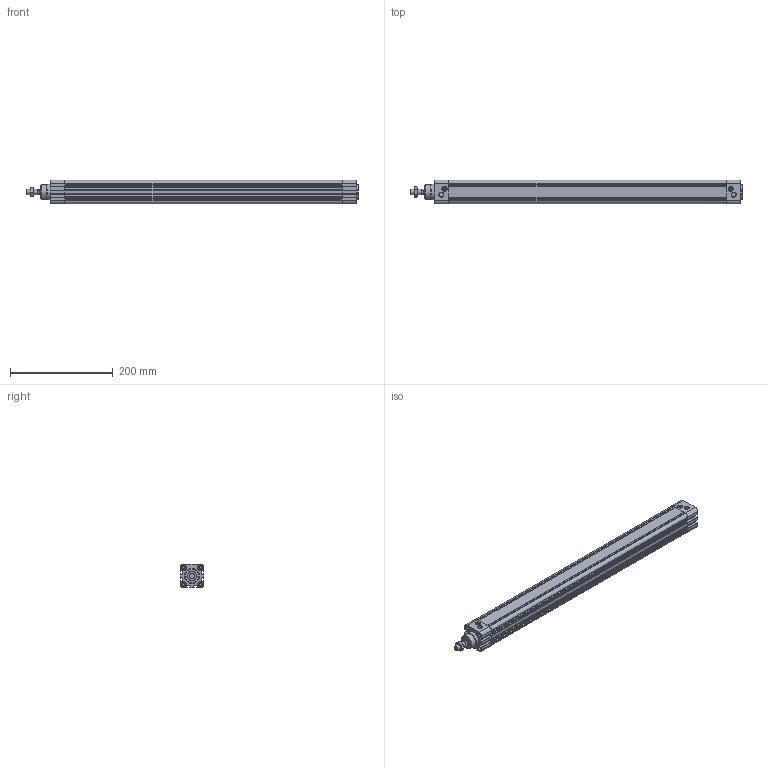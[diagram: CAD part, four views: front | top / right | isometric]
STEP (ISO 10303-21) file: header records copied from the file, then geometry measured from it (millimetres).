
FILE_DESCRIPTION( ( 'STEP AP214' ), '1' );
FILE_NAME( 'C:/Users/emc02044/Desktop/FVBC/FVBC32X500-S.stp', '2026-07-20T06:31:18', ( 'License CC BY-ND 4.0' ), ( 'CADENAS' ), ' ', 'PARTsolutions', ' ' );
FILE_SCHEMA( ( 'AUTOMOTIVE_DESIGN { 1 0 10303 214 1 1 1 1 }' ) );
Length unit declared in the file: millimetre
Products named in the file (3): FVBC32X500-0-S()(0); _FVB32x500()_fvbc_body ; _32X500-0_rod
Assembly tree (2 placements, depth 2):
  FVBC32X500-0-S()(0)
    _FVB32x500()_fvbc_body 
    _32X500-0_rod
Bounding box: 645 x 46.5 x 46.58 mm (x, y, z)
Volume: 748961.2 mm3; surface area: 251309.5 mm2
Topology: 2 solids, 2 shells, 499 faces, 1252 edges, 807 vertices
Faces by surface type: plane 284, cylinder 172, cone 32, torus 11
Full cylindrical faces by diameter (mm): 4.917 x8, 8.4 x8, 8.566 x2, 9.7 x8, 10 x4, 12 x3, 20 x2, 28 x1, 30 x2, 32 x2
Entity records: 18650 total; most frequent: CARTESIAN_POINT 2684, DIRECTION 2542, ORIENTED_EDGE 2352, EDGE_CURVE 1176, AXIS2_PLACEMENT_3D 896, VERTEX_POINT 798, LINE 750, VECTOR 750
